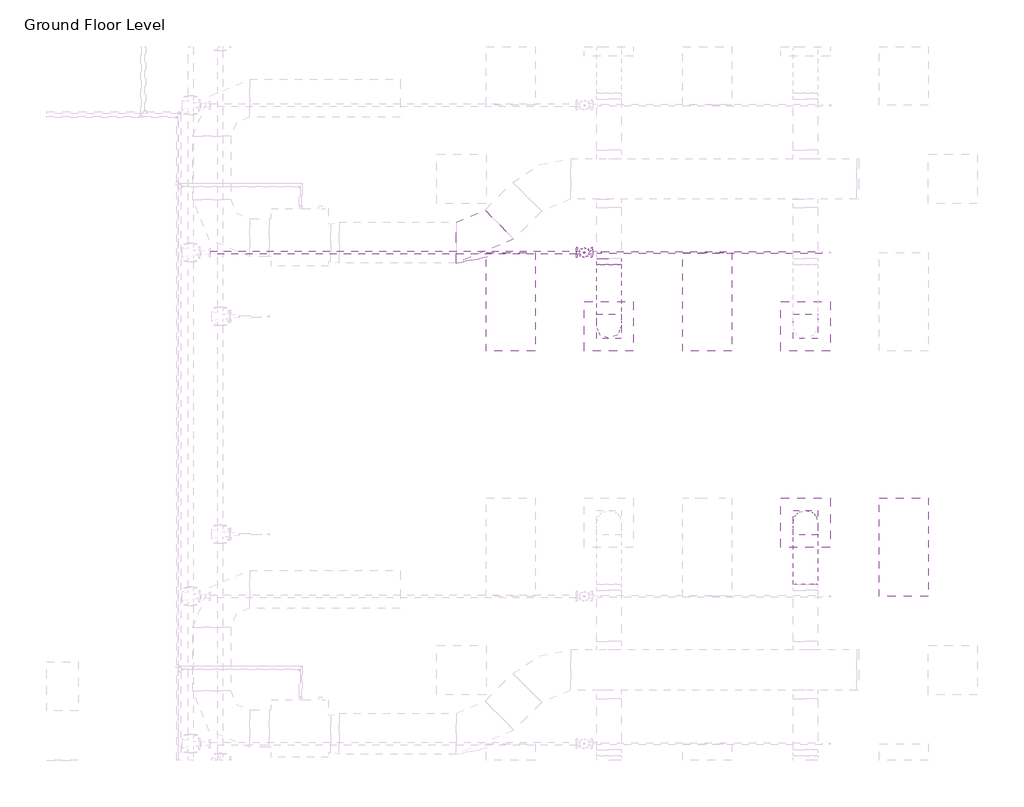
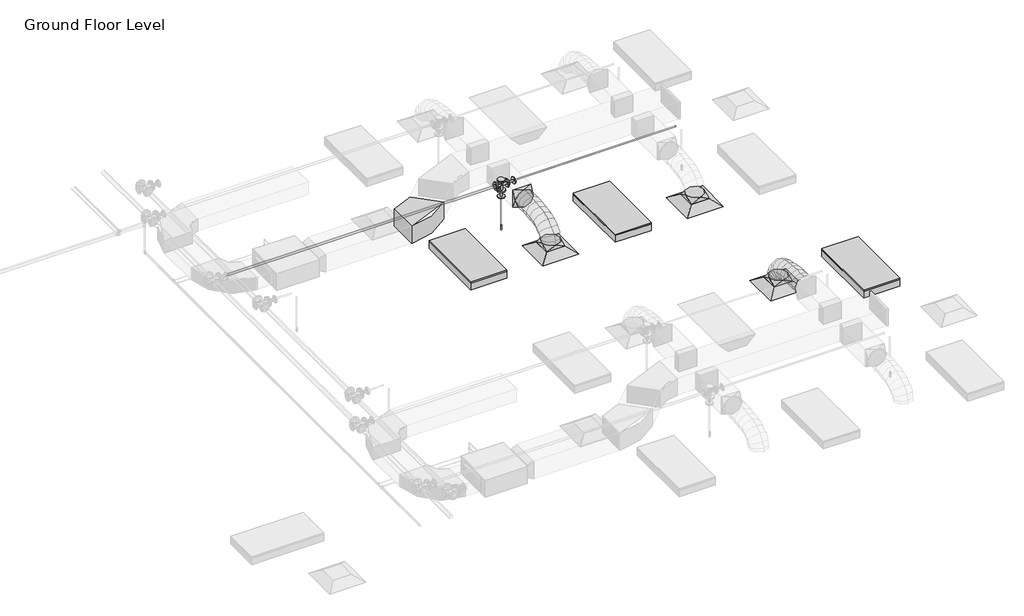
# One storey, part 68 of 73: 5 duct fittings, 3 air terminals, 3 light fixtures, 3 pipe fittings, 3 pipe segments, 2 duct segments, 1 fire suppression terminal.
"""IFC4 building model written with IfcOpenShell, lengths in millimetres."""

from ifc_helpers import new_model, si_unit, point, frame, frame_2d, origin, place, context, project, spatial, circle_curve, ellipse_curve, trimmed, segment, composite_curve, outline, extrude, transform, mapped, element, save
from ifc_brep_helpers import plane_surface, cylinder_surface, advanced_brep
from components import m_return_diffuser_600_x_600_face_300_x_300_connection_ff221211, m_rectangular_elbow_radius_1_5_w_acc56c25, m_rectangular_to_round_transition_angle_45_degree_641efff0, m_sprinkler_dry_pendent_hosted_15_mm_dry_pendent_9bda8e11, m_troffer_light_parabolic_rectangular1_0600x1200mm_4_lamp_86473d4a, m_reducer_flanged_cs_class_150_standard_ccf252ad, m_tee_round_base_flanged_cs_class_150_standard_7e5987a1

model = new_model("IFC4")

# Units and contexts
model_context = context("Model", 3, world=origin())
ifc_project = project(units=[si_unit("LENGTHUNIT", "METRE", prefix="MILLI")], contexts=[model_context])

# Site, building, storey
site = spatial("IfcSite", under=ifc_project)
building = spatial("IfcBuilding", under=site)
storey = spatial("IfcBuildingStorey", under=building, Name="Ground Floor Level", Elevation=900.0)

# Air terminals
placement = place(None, origin())
m_return_diffuser_600_x_600_face_300_x_300_connection_shape = m_return_diffuser_600_x_600_face_300_x_300_connection_ff221211(model_context)
element("IfcAirTerminal", 1, ObjectType="M_Supply Diffuser : 600 x 600 Face 300 x 300 Connection", at=placement, inside=storey, context=model_context, shape_type="MappedRepresentation", body=[
    mapped(m_return_diffuser_600_x_600_face_300_x_300_connection_shape, transform((10742.7672395, 10935.2153534, 3650.0), x_axis=(1.0, 0.0, 0.0), y_axis=(0.0, 1.0, 0.0), z_axis=(0.0, 0.0, 1.0))),
])
element("IfcAirTerminal", 2, ObjectType="M_Supply Diffuser : 600 x 600 Face 300 x 300 Connection", at=placement, inside=storey, context=model_context, shape_type="MappedRepresentation", body=[
    mapped(m_return_diffuser_600_x_600_face_300_x_300_connection_shape, transform((13142.7672395, 10935.2153534, 3650.0), x_axis=(1.0, 0.0, 0.0), y_axis=(0.0, 1.0, 0.0), z_axis=(0.0, 0.0, 1.0))),
])
element("IfcAirTerminal", 3, ObjectType="M_Supply Diffuser : 600 x 600 Face 300 x 300 Connection", at=placement, inside=storey, context=model_context, shape_type="MappedRepresentation", body=[
    mapped(m_return_diffuser_600_x_600_face_300_x_300_connection_shape, transform((13142.7672395, 8535.2153534, 3650.0), x_axis=(1.0, 0.0, 0.0), y_axis=(0.0, 1.0, 0.0), z_axis=(0.0, 0.0, 1.0))),
])

# Duct fittings
m_rectangular_elbow_radius_1_5_w_shape = m_rectangular_elbow_radius_1_5_w_acc56c25(model_context)
element("IfcDuctFitting", 4, ObjectType="M_Rectangular Elbow - Radius : 1.5 W", at=placement, inside=storey, context=model_context, shape_type="MappedRepresentation", body=[
    mapped(m_rectangular_elbow_radius_1_5_w_shape, transform((9187.6927358, 11956.1779527, 4100.0047224), x_axis=(0.9999999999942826, 0.0, -3.3815582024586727e-06), y_axis=(-9.063610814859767e-12, 0.9999999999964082, -2.680306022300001e-06), z_axis=(3.3815582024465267e-06, 2.6803060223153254e-06, 0.9999999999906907))),
])
m_rectangular_to_round_transition_angle_45_degree_shape = m_rectangular_to_round_transition_angle_45_degree_641efff0(model_context)
element("IfcDuctFitting", 5, ObjectType="M_Rectangular to Round Transition - Angle : 45 Degree", at=placement, inside=storey, context=model_context, shape_type="MappedRepresentation", body=[
    mapped(m_rectangular_to_round_transition_angle_45_degree_shape, transform((13142.7672395, 8535.2153534, 3751.6), x_axis=(0.0, 0.0, 1.0), y_axis=(-1.0, 0.0, 0.0), z_axis=(0.0, -1.0, 0.0))),
])
element("IfcDuctFitting", 6, ObjectType="M_Rectangular to Round Transition - Angle : 45 Degree", at=placement, inside=storey, context=model_context, shape_type="MappedRepresentation", body=[
    mapped(m_rectangular_to_round_transition_angle_45_degree_shape, transform((10742.7672395, 10935.2153534, 3751.6), x_axis=(0.0, 0.0, 1.0), y_axis=(-1.0, 0.0, 0.0), z_axis=(0.0, -1.0, 0.0))),
])
element("IfcDuctFitting", 7, ObjectType="M_Rectangular to Round Transition - Angle : 45 Degree", at=placement, inside=storey, context=model_context, shape_type="MappedRepresentation", body=[
    mapped(m_rectangular_to_round_transition_angle_45_degree_shape, transform((10742.7672395, 11762.5512847, 4100.0), x_axis=(0.0, -1.0, 0.0), y_axis=(1.0, 0.0, 0.0), z_axis=(0.0, 0.0, 1.0))),
])
element("IfcDuctFitting", 8, ObjectType="M_Rectangular to Round Transition - Angle : 45 Degree", at=placement, inside=storey, context=model_context, shape_type="MappedRepresentation", body=[
    mapped(m_rectangular_to_round_transition_angle_45_degree_shape, transform((13142.7672395, 10935.2153534, 3751.6), x_axis=(0.0, 0.0, 1.0), y_axis=(-1.0, 0.0, 0.0), z_axis=(0.0, -1.0, 0.0))),
])

# Duct segments
element("IfcDuctSegment", 9, ObjectType="Flex - Round", at=placement, inside=storey, context=model_context, shape_type="AdvancedBrep", body=[
    advanced_brep(
    [(13292.7672395, 8535.2153534, 3826.6), (13142.7672395, 8385.2153534, 3826.6), (12992.7672395, 8535.2153534, 3826.6), (13142.7672395, 8685.2153534, 3826.6), (13292.7672395, 8535.2153534, 3857.9377114), (13142.7672395, 8385.2153534, 3832.2944892), (12992.7672395, 8535.2153534, 3857.9377114), (13142.7672395, 8685.2153534, 3883.5809337), (13292.7672395, 8518.1994208, 3906.2505728), (13142.7672395, 8384.4614419, 3834.435049), (12992.7672395, 8518.1994208, 3906.2505728), (13142.7672395, 8651.9373998, 3978.0660967), (13292.7672395, 8471.0155405, 3968.7113131), (13142.7672395, 8366.8096412, 3857.8020236), (12992.7672395, 8471.0155405, 3968.7113131), (13142.7672395, 8575.2214397, 4079.6206026), (13292.7672395, 8399.4595883, 4016.0700639), (13142.7672395, 8330.5255327, 3881.8163788), (12992.7672395, 8399.4595883, 4016.0700639), (13142.7672395, 8468.3936439, 4150.3237489), (13292.7672395, 8309.3274403, 4050.4146682), (13142.7672395, 8265.7666771, 3906.4925606), (12992.7672395, 8309.3274403, 4050.4146682), (13142.7672395, 8352.8882035, 4194.3367758), (13292.7672395, 8206.4149725, 4073.8329691), (13142.7672395, 8179.8540485, 3926.0424542), (12992.7672395, 8206.4149725, 4073.8329691), (13142.7672395, 8232.9758965, 4221.6234841), (13292.7672395, 8096.5180607, 4088.4128097), (13142.7672395, 8081.3671584, 3939.1085462), (12992.7672395, 8096.5180607, 4088.4128097), (13142.7672395, 8111.6689631, 4237.7170733), (13292.7672395, 7985.4325811, 4096.242033), (13142.7672395, 7977.9272529, 3946.398915), (12992.7672395, 7985.4325811, 4096.242033), (13142.7672395, 7992.9379093, 4246.085151), (13292.7672395, 7878.9544096, 4099.4084821), (13142.7672395, 7876.2629165, 3949.4222102), (12992.7672395, 7878.9544096, 4099.4084821), (13142.7672395, 7881.6459027, 4249.394754), (13292.7672395, 7782.8794221, 4100.0), (13142.7672395, 7783.8029299, 4249.9971571), (12992.7672395, 7782.8794221, 4100.0), (13142.7672395, 7781.9559143, 3950.0028429)],
    [
        (0, 1, circle_curve(frame((13142.7672395, 8535.2153534, 3826.6), z_axis=(0.0, 0.0, -1.0), x_axis=(1.0, 0.0, 0.0)), 150.0)),
        (1, 2, circle_curve(frame((13142.7672395, 8535.2153534, 3826.6), z_axis=(0.0, 0.0, -1.0), x_axis=(1.0, 0.0, 0.0)), 150.0)),
        (2, 3, circle_curve(frame((13142.7672395, 8535.2153534, 3826.6), z_axis=(0.0, 0.0, -1.0), x_axis=(1.0, 0.0, 0.0)), 150.0)),
        (3, 0, circle_curve(frame((13142.7672395, 8535.2153534, 3826.6), z_axis=(0.0, 0.0, -1.0), x_axis=(1.0, 0.0, 0.0)), 150.0)),
        (0, 4),
        (4, 5, ellipse_curve(frame((13142.7672395, 8535.2153534, 3857.9377114), z_axis=(0.0, 0.16851014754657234, -0.9856999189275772), x_axis=(0.0, -0.9856999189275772, -0.1685101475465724)), 152.176131, 150.0)),
        (5, 1),
        (5, 6, ellipse_curve(frame((13142.7672395, 8535.2153534, 3857.9377114), z_axis=(0.0, 0.16851014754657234, -0.9856999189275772), x_axis=(0.0, -0.9856999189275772, -0.1685101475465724)), 152.176131, 150.0)),
        (6, 2),
        (6, 7, ellipse_curve(frame((13142.7672395, 8535.2153534, 3857.9377114), z_axis=(0.0, 0.16851014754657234, -0.9856999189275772), x_axis=(0.0, -0.9856999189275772, -0.1685101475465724)), 152.176131, 150.0)),
        (7, 3),
        (7, 4, ellipse_curve(frame((13142.7672395, 8535.2153534, 3857.9377114), z_axis=(0.0, 0.16851014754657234, -0.9856999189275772), x_axis=(0.0, -0.9856999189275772, -0.1685101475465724)), 152.176131, 150.0)),
        (4, 8),
        (8, 9, ellipse_curve(frame((13142.7672395, 8518.1994208, 3906.2505728), z_axis=(0.0, 0.4730922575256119, -0.8810128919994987), x_axis=(0.0, -0.8810128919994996, -0.47309225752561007)), 151.8002519, 150.0)),
        (9, 5),
        (9, 10, ellipse_curve(frame((13142.7672395, 8518.1994208, 3906.2505728), z_axis=(0.0, 0.4730922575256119, -0.8810128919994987), x_axis=(0.0, -0.8810128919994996, -0.47309225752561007)), 151.8002519, 150.0)),
        (10, 6),
        (10, 11, ellipse_curve(frame((13142.7672395, 8518.1994208, 3906.2505728), z_axis=(0.0, 0.4730922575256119, -0.8810128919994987), x_axis=(0.0, -0.8810128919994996, -0.47309225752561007)), 151.8002519, 150.0)),
        (11, 7),
        (11, 8, ellipse_curve(frame((13142.7672395, 8518.1994208, 3906.2505728), z_axis=(0.0, 0.4730922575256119, -0.8810128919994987), x_axis=(0.0, -0.8810128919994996, -0.47309225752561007)), 151.8002519, 150.0)),
        (8, 12),
        (12, 13, ellipse_curve(frame((13142.7672395, 8471.0155405, 3968.7113131), z_axis=(0.0, 0.7287877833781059, -0.6847396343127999), x_axis=(0.0, -0.6847396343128, -0.7287877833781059)), 152.1832446, 150.0)),
        (13, 9),
        (13, 14, ellipse_curve(frame((13142.7672395, 8471.0155405, 3968.7113131), z_axis=(0.0, 0.7287877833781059, -0.6847396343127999), x_axis=(0.0, -0.6847396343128, -0.7287877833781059)), 152.1832446, 150.0)),
        (14, 10),
        (14, 15, ellipse_curve(frame((13142.7672395, 8471.0155405, 3968.7113131), z_axis=(0.0, 0.7287877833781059, -0.6847396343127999), x_axis=(0.0, -0.6847396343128, -0.7287877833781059)), 152.1832446, 150.0)),
        (15, 11),
        (15, 12, ellipse_curve(frame((13142.7672395, 8471.0155405, 3968.7113131), z_axis=(0.0, 0.7287877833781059, -0.6847396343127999), x_axis=(0.0, -0.6847396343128, -0.7287877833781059)), 152.1832446, 150.0)),
        (12, 16),
        (16, 17, ellipse_curve(frame((13142.7672395, 8399.4595883, 4016.0700639), z_axis=(0.0, 0.8895859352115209, -0.4567678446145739), x_axis=(0.0, -0.4567678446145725, -0.8895859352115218)), 150.91705, 150.0)),
        (17, 13),
        (17, 18, ellipse_curve(frame((13142.7672395, 8399.4595883, 4016.0700639), z_axis=(0.0, 0.8895859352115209, -0.4567678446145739), x_axis=(0.0, -0.4567678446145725, -0.8895859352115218)), 150.91705, 150.0)),
        (18, 14),
        (18, 19, ellipse_curve(frame((13142.7672395, 8399.4595883, 4016.0700639), z_axis=(0.0, 0.8895859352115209, -0.4567678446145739), x_axis=(0.0, -0.4567678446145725, -0.8895859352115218)), 150.91705, 150.0)),
        (19, 15),
        (19, 16, ellipse_curve(frame((13142.7672395, 8399.4595883, 4016.0700639), z_axis=(0.0, 0.8895859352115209, -0.4567678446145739), x_axis=(0.0, -0.4567678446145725, -0.8895859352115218)), 150.91705, 150.0)),
        (16, 20),
        (20, 21, ellipse_curve(frame((13142.7672395, 8309.3274403, 4050.4146682), z_axis=(0.0, 0.9571203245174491, -0.28969067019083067), x_axis=(0.0, -0.28969067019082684, -0.9571203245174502)), 150.369921, 150.0)),
        (21, 17),
        (21, 22, ellipse_curve(frame((13142.7672395, 8309.3274403, 4050.4146682), z_axis=(0.0, 0.9571203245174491, -0.28969067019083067), x_axis=(0.0, -0.28969067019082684, -0.9571203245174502)), 150.369921, 150.0)),
        (22, 18),
        (22, 23, ellipse_curve(frame((13142.7672395, 8309.3274403, 4050.4146682), z_axis=(0.0, 0.9571203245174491, -0.28969067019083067), x_axis=(0.0, -0.28969067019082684, -0.9571203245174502)), 150.369921, 150.0)),
        (23, 19),
        (23, 20, ellipse_curve(frame((13142.7672395, 8309.3274403, 4050.4146682), z_axis=(0.0, 0.9571203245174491, -0.28969067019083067), x_axis=(0.0, -0.28969067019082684, -0.9571203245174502)), 150.369921, 150.0)),
        (20, 24),
        (24, 25, ellipse_curve(frame((13142.7672395, 8206.4149725, 4073.8329691), z_axis=(0.0, 0.9842313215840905, -0.17688613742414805), x_axis=(0.0, -0.17688613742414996, -0.9842313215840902)), 150.1583131, 150.0)),
        (25, 21),
        (25, 26, ellipse_curve(frame((13142.7672395, 8206.4149725, 4073.8329691), z_axis=(0.0, 0.9842313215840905, -0.17688613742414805), x_axis=(0.0, -0.17688613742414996, -0.9842313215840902)), 150.1583131, 150.0)),
        (26, 22),
        (26, 27, ellipse_curve(frame((13142.7672395, 8206.4149725, 4073.8329691), z_axis=(0.0, 0.9842313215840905, -0.17688613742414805), x_axis=(0.0, -0.17688613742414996, -0.9842313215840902)), 150.1583131, 150.0)),
        (27, 23),
        (27, 24, ellipse_curve(frame((13142.7672395, 8206.4149725, 4073.8329691), z_axis=(0.0, 0.9842313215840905, -0.17688613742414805), x_axis=(0.0, -0.17688613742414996, -0.9842313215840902)), 150.1583131, 150.0)),
        (24, 28),
        (28, 29, ellipse_curve(frame((13142.7672395, 8096.5180607, 4088.4128097), z_axis=(0.0, 0.9948906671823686, -0.10095821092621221), x_axis=(0.0, -0.10095821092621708, -0.9948906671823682)), 150.0710264, 150.0)),
        (29, 25),
        (29, 30, ellipse_curve(frame((13142.7672395, 8096.5180607, 4088.4128097), z_axis=(0.0, 0.9948906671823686, -0.10095821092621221), x_axis=(0.0, -0.10095821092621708, -0.9948906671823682)), 150.0710264, 150.0)),
        (30, 26),
        (30, 31, ellipse_curve(frame((13142.7672395, 8096.5180607, 4088.4128097), z_axis=(0.0, 0.9948906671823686, -0.10095821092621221), x_axis=(0.0, -0.10095821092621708, -0.9948906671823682)), 150.0710264, 150.0)),
        (31, 27),
        (31, 28, ellipse_curve(frame((13142.7672395, 8096.5180607, 4088.4128097), z_axis=(0.0, 0.9948906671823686, -0.10095821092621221), x_axis=(0.0, -0.10095821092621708, -0.9948906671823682)), 150.0710264, 150.0)),
        (28, 32),
        (32, 33, ellipse_curve(frame((13142.7672395, 7985.4325811, 4096.242033), z_axis=(0.0, 0.9987479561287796, -0.05002519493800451), x_axis=(0.0, -0.050025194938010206, -0.9987479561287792)), 150.0309634, 150.0)),
        (33, 29),
        (33, 34, ellipse_curve(frame((13142.7672395, 7985.4325811, 4096.242033), z_axis=(0.0, 0.9987479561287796, -0.05002519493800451), x_axis=(0.0, -0.050025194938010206, -0.9987479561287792)), 150.0309634, 150.0)),
        (34, 30),
        (34, 35, ellipse_curve(frame((13142.7672395, 7985.4325811, 4096.242033), z_axis=(0.0, 0.9987479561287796, -0.05002519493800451), x_axis=(0.0, -0.050025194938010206, -0.9987479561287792)), 150.0309634, 150.0)),
        (35, 31),
        (35, 32, ellipse_curve(frame((13142.7672395, 7985.4325811, 4096.242033), z_axis=(0.0, 0.9987479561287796, -0.05002519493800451), x_axis=(0.0, -0.050025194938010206, -0.9987479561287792)), 150.0309634, 150.0)),
        (32, 36),
        (36, 37, ellipse_curve(frame((13142.7672395, 7878.9544096, 4099.4084821), z_axis=(0.0, 0.9998390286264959, -0.017942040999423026), x_axis=(0.0, -0.01794204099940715, -0.9998390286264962)), 150.0104193, 150.0)),
        (37, 33),
        (37, 38, ellipse_curve(frame((13142.7672395, 7878.9544096, 4099.4084821), z_axis=(0.0, 0.9998390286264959, -0.017942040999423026), x_axis=(0.0, -0.01794204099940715, -0.9998390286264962)), 150.0104193, 150.0)),
        (38, 34),
        (38, 39, ellipse_curve(frame((13142.7672395, 7878.9544096, 4099.4084821), z_axis=(0.0, 0.9998390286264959, -0.017942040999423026), x_axis=(0.0, -0.01794204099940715, -0.9998390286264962)), 150.0104193, 150.0)),
        (39, 35),
        (39, 36, ellipse_curve(frame((13142.7672395, 7878.9544096, 4099.4084821), z_axis=(0.0, 0.9998390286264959, -0.017942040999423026), x_axis=(0.0, -0.01794204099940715, -0.9998390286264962)), 150.0104193, 150.0)),
        (40, 41, circle_curve(frame((13142.7672395, 7782.8794221, 4100.0), z_axis=(0.0, -0.9999810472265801, 0.006156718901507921), x_axis=(1.0, 0.0, 0.0)), 150.0)),
        (41, 42, circle_curve(frame((13142.7672395, 7782.8794221, 4100.0), z_axis=(0.0, -0.9999810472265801, 0.006156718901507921), x_axis=(1.0, 0.0, 0.0)), 150.0)),
        (42, 43, circle_curve(frame((13142.7672395, 7782.8794221, 4100.0), z_axis=(0.0, -0.9999810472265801, 0.006156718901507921), x_axis=(1.0, 0.0, 0.0)), 150.0)),
        (43, 40, circle_curve(frame((13142.7672395, 7782.8794221, 4100.0), z_axis=(0.0, -0.9999810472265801, 0.006156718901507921), x_axis=(1.0, 0.0, 0.0)), 150.0)),
        (36, 40),
        (43, 37),
        (42, 38),
        (41, 39),
    ],
    [
        plane_surface(frame((13142.7672395, 8385.2153534, 3826.6), z_axis=(0.0, 0.0, -1.0), x_axis=(1.0, 0.0, 0.0))),
        cylinder_surface(frame((13142.7672395, 8535.2153534, 3826.6), z_axis=(0.0, 0.0, -1.0), x_axis=(1.0, 0.0, 0.0)), 150.0),
        cylinder_surface(frame((13142.7672395, 8535.2153534, 3857.9377114), z_axis=(0.0, 0.3322008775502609, -0.9432086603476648), x_axis=(1.0, 0.0, 0.0)), 150.0),
        cylinder_surface(frame((13142.7672395, 8518.1994208, 3906.2505728), z_axis=(0.0, 0.6027625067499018, -0.7979206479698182), x_axis=(1.0, 0.0, 0.0)), 150.0),
        cylinder_surface(frame((13142.7672395, 8471.0155405, 3968.7113131), z_axis=(0.0, 0.8339024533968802, -0.5519118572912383), x_axis=(1.0, 0.0, 0.0)), 150.0),
        cylinder_surface(frame((13142.7672395, 8399.4595883, 4016.0700639), z_axis=(0.0, 0.934458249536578, -0.35607271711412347), x_axis=(1.0, 0.0, 0.0)), 150.0),
        cylinder_surface(frame((13142.7672395, 8309.3274403, 4050.4146682), z_axis=(0.0, 0.9750732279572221, -0.22188330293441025), x_axis=(1.0, 0.0, 0.0)), 150.0),
        cylinder_surface(frame((13142.7672395, 8206.4149725, 4073.8329691), z_axis=(0.0, 0.9913140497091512, -0.1315159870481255), x_axis=(1.0, 0.0, 0.0)), 150.0),
        cylinder_surface(frame((13142.7672395, 8096.5180607, 4088.4128097), z_axis=(0.0, 0.9975255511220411, -0.07030487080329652), x_axis=(1.0, 0.0, 0.0)), 150.0),
        cylinder_surface(frame((13142.7672395, 7985.4325811, 4096.242033), z_axis=(0.0, 0.9995581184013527, -0.02972487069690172), x_axis=(1.0, 0.0, 0.0)), 150.0),
        plane_surface(frame((13142.7672395, 7781.9559143, 3950.0028429), z_axis=(0.0, -0.9999810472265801, 0.006156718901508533), x_axis=(1.0, 0.0, 0.0))),
        cylinder_surface(frame((13142.7672395, 7878.9544096, 4099.4084821), z_axis=(0.0, 0.9999810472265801, -0.006156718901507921), x_axis=(1.0, 0.0, 0.0)), 150.0),
    ],
    [
        (0, [[1, 2, 3, 4]]),
        (1, [[-1, 5, 6, 7]]),
        (1, [[-2, -7, 8, 9]]),
        (1, [[-3, -9, 10, 11]]),
        (1, [[-4, -11, 12, -5]]),
        (2, [[-6, 13, 14, 15]]),
        (2, [[-8, -15, 16, 17]]),
        (2, [[-10, -17, 18, 19]]),
        (2, [[-12, -19, 20, -13]]),
        (3, [[-14, 21, 22, 23]]),
        (3, [[-16, -23, 24, 25]]),
        (3, [[-18, -25, 26, 27]]),
        (3, [[-20, -27, 28, -21]]),
        (4, [[-22, 29, 30, 31]]),
        (4, [[-24, -31, 32, 33]]),
        (4, [[-26, -33, 34, 35]]),
        (4, [[-28, -35, 36, -29]]),
        (5, [[-30, 37, 38, 39]]),
        (5, [[-32, -39, 40, 41]]),
        (5, [[-34, -41, 42, 43]]),
        (5, [[-36, -43, 44, -37]]),
        (6, [[-38, 45, 46, 47]]),
        (6, [[-40, -47, 48, 49]]),
        (6, [[-42, -49, 50, 51]]),
        (6, [[-44, -51, 52, -45]]),
        (7, [[-46, 53, 54, 55]]),
        (7, [[-48, -55, 56, 57]]),
        (7, [[-50, -57, 58, 59]]),
        (7, [[-52, -59, 60, -53]]),
        (8, [[-54, 61, 62, 63]]),
        (8, [[-56, -63, 64, 65]]),
        (8, [[-58, -65, 66, 67]]),
        (8, [[-60, -67, 68, -61]]),
        (9, [[-62, 69, 70, 71]]),
        (9, [[-64, -71, 72, 73]]),
        (9, [[-66, -73, 74, 75]]),
        (9, [[-68, -75, 76, -69]]),
        (10, [[77, 78, 79, 80]]),
        (11, [[-70, 81, -80, 82]]),
        (11, [[-72, -82, -79, 83]]),
        (11, [[-74, -83, -78, 84]]),
        (11, [[-76, -84, -77, -81]]),
    ],
),
])
element("IfcDuctSegment", 10, ObjectType="Flex - Round", at=placement, inside=storey, context=model_context, shape_type="AdvancedBrep", body=[
    advanced_brep(
    [(10892.7672395, 10935.2153534, 3826.6), (10742.7672395, 10785.2153534, 3826.6), (10592.7672395, 10935.2153534, 3826.6), (10742.7672395, 11085.2153534, 3826.6), (10892.7672395, 10935.2153534, 3857.9377114), (10742.7672395, 10785.2153534, 3883.5809337), (10592.7672395, 10935.2153534, 3857.9377114), (10742.7672395, 11085.2153534, 3832.2944892), (10892.7672395, 10952.2312859, 3906.2505728), (10742.7672395, 10818.493307, 3978.0660967), (10592.7672395, 10952.2312859, 3906.2505728), (10742.7672395, 11085.9692649, 3834.435049), (10892.7672395, 10999.4151663, 3968.7113131), (10742.7672395, 10895.209267, 4079.6206026), (10592.7672395, 10999.4151663, 3968.7113131), (10742.7672395, 11103.6210655, 3857.8020236), (10892.7672395, 11070.9711184, 4016.0700639), (10742.7672395, 11002.0370628, 4150.3237489), (10592.7672395, 11070.9711184, 4016.0700639), (10742.7672395, 11139.9051741, 3881.8163788), (10892.7672395, 11161.1032664, 4050.4146682), (10742.7672395, 11117.5425033, 4194.3367758), (10592.7672395, 11161.1032664, 4050.4146682), (10742.7672395, 11204.6640296, 3906.4925606), (10892.7672395, 11264.0157343, 4073.8329691), (10742.7672395, 11237.4548103, 4221.6234841), (10592.7672395, 11264.0157343, 4073.8329691), (10742.7672395, 11290.5766583, 3926.0424542), (10892.7672395, 11373.912646, 4088.4128097), (10742.7672395, 11358.7617437, 4237.7170733), (10592.7672395, 11373.912646, 4088.4128097), (10742.7672395, 11389.0635483, 3939.1085462), (10892.7672395, 11484.9981256, 4096.242033), (10742.7672395, 11477.4927975, 4246.085151), (10592.7672395, 11484.9981256, 4096.242033), (10742.7672395, 11492.5034538, 3946.398915), (10892.7672395, 11591.4762972, 4099.4084821), (10742.7672395, 11588.7848041, 4249.394754), (10592.7672395, 11591.4762972, 4099.4084821), (10742.7672395, 11594.1677903, 3949.4222102), (10892.7672395, 11687.5512847, 4100.0), (10742.7672395, 11688.4747925, 3950.0028429), (10592.7672395, 11687.5512847, 4100.0), (10742.7672395, 11686.6277768, 4249.9971571)],
    [
        (0, 1, circle_curve(frame((10742.7672395, 10935.2153534, 3826.6), z_axis=(0.0, 0.0, -1.0), x_axis=(1.0, 0.0, 0.0)), 150.0)),
        (1, 2, circle_curve(frame((10742.7672395, 10935.2153534, 3826.6), z_axis=(0.0, 0.0, -1.0), x_axis=(1.0, 0.0, 0.0)), 150.0)),
        (2, 3, circle_curve(frame((10742.7672395, 10935.2153534, 3826.6), z_axis=(0.0, 0.0, -1.0), x_axis=(1.0, 0.0, 0.0)), 150.0)),
        (3, 0, circle_curve(frame((10742.7672395, 10935.2153534, 3826.6), z_axis=(0.0, 0.0, -1.0), x_axis=(1.0, 0.0, 0.0)), 150.0)),
        (0, 4),
        (4, 5, ellipse_curve(frame((10742.7672395, 10935.2153534, 3857.9377114), z_axis=(0.0, -0.16851014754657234, -0.9856999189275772), x_axis=(0.0, 0.9856999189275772, -0.1685101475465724)), 152.176131, 150.0)),
        (5, 1),
        (5, 6, ellipse_curve(frame((10742.7672395, 10935.2153534, 3857.9377114), z_axis=(0.0, -0.16851014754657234, -0.9856999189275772), x_axis=(0.0, 0.9856999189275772, -0.1685101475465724)), 152.176131, 150.0)),
        (6, 2),
        (6, 7, ellipse_curve(frame((10742.7672395, 10935.2153534, 3857.9377114), z_axis=(0.0, -0.16851014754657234, -0.9856999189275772), x_axis=(0.0, 0.9856999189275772, -0.1685101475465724)), 152.176131, 150.0)),
        (7, 3),
        (7, 4, ellipse_curve(frame((10742.7672395, 10935.2153534, 3857.9377114), z_axis=(0.0, -0.16851014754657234, -0.9856999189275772), x_axis=(0.0, 0.9856999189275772, -0.1685101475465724)), 152.176131, 150.0)),
        (4, 8),
        (8, 9, ellipse_curve(frame((10742.7672395, 10952.2312859, 3906.2505728), z_axis=(0.0, -0.47309225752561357, -0.8810128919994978), x_axis=(0.0, 0.8810128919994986, -0.47309225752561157)), 151.8002519, 150.0)),
        (9, 5),
        (9, 10, ellipse_curve(frame((10742.7672395, 10952.2312859, 3906.2505728), z_axis=(0.0, -0.47309225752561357, -0.8810128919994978), x_axis=(0.0, 0.8810128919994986, -0.47309225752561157)), 151.8002519, 150.0)),
        (10, 6),
        (10, 11, ellipse_curve(frame((10742.7672395, 10952.2312859, 3906.2505728), z_axis=(0.0, -0.47309225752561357, -0.8810128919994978), x_axis=(0.0, 0.8810128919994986, -0.47309225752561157)), 151.8002519, 150.0)),
        (11, 7),
        (11, 8, ellipse_curve(frame((10742.7672395, 10952.2312859, 3906.2505728), z_axis=(0.0, -0.47309225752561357, -0.8810128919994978), x_axis=(0.0, 0.8810128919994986, -0.47309225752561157)), 151.8002519, 150.0)),
        (8, 12),
        (12, 13, ellipse_curve(frame((10742.7672395, 10999.4151663, 3968.7113131), z_axis=(0.0, -0.7287877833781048, -0.6847396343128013), x_axis=(0.0, 0.6847396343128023, -0.7287877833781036)), 152.1832446, 150.0)),
        (13, 9),
        (13, 14, ellipse_curve(frame((10742.7672395, 10999.4151663, 3968.7113131), z_axis=(0.0, -0.7287877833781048, -0.6847396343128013), x_axis=(0.0, 0.6847396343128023, -0.7287877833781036)), 152.1832446, 150.0)),
        (14, 10),
        (14, 15, ellipse_curve(frame((10742.7672395, 10999.4151663, 3968.7113131), z_axis=(0.0, -0.7287877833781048, -0.6847396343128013), x_axis=(0.0, 0.6847396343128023, -0.7287877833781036)), 152.1832446, 150.0)),
        (15, 11),
        (15, 12, ellipse_curve(frame((10742.7672395, 10999.4151663, 3968.7113131), z_axis=(0.0, -0.7287877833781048, -0.6847396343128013), x_axis=(0.0, 0.6847396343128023, -0.7287877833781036)), 152.1832446, 150.0)),
        (12, 16),
        (16, 17, ellipse_curve(frame((10742.7672395, 11070.9711184, 4016.0700639), z_axis=(0.0, -0.8895859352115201, -0.45676784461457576), x_axis=(0.0, 0.45676784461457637, -0.8895859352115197)), 150.91705, 150.0)),
        (17, 13),
        (17, 18, ellipse_curve(frame((10742.7672395, 11070.9711184, 4016.0700639), z_axis=(0.0, -0.8895859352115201, -0.45676784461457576), x_axis=(0.0, 0.45676784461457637, -0.8895859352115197)), 150.91705, 150.0)),
        (18, 14),
        (18, 19, ellipse_curve(frame((10742.7672395, 11070.9711184, 4016.0700639), z_axis=(0.0, -0.8895859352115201, -0.45676784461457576), x_axis=(0.0, 0.45676784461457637, -0.8895859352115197)), 150.91705, 150.0)),
        (19, 15),
        (19, 16, ellipse_curve(frame((10742.7672395, 11070.9711184, 4016.0700639), z_axis=(0.0, -0.8895859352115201, -0.45676784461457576), x_axis=(0.0, 0.45676784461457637, -0.8895859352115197)), 150.91705, 150.0)),
        (16, 20),
        (20, 21, ellipse_curve(frame((10742.7672395, 11161.1032664, 4050.4146682), z_axis=(0.0, -0.9571203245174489, -0.2896906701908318), x_axis=(0.0, 0.28969067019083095, -0.9571203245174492)), 150.369921, 150.0)),
        (21, 17),
        (21, 22, ellipse_curve(frame((10742.7672395, 11161.1032664, 4050.4146682), z_axis=(0.0, -0.9571203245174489, -0.2896906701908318), x_axis=(0.0, 0.28969067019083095, -0.9571203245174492)), 150.369921, 150.0)),
        (22, 18),
        (22, 23, ellipse_curve(frame((10742.7672395, 11161.1032664, 4050.4146682), z_axis=(0.0, -0.9571203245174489, -0.2896906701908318), x_axis=(0.0, 0.28969067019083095, -0.9571203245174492)), 150.369921, 150.0)),
        (23, 19),
        (23, 20, ellipse_curve(frame((10742.7672395, 11161.1032664, 4050.4146682), z_axis=(0.0, -0.9571203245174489, -0.2896906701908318), x_axis=(0.0, 0.28969067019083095, -0.9571203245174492)), 150.369921, 150.0)),
        (20, 24),
        (24, 25, ellipse_curve(frame((10742.7672395, 11264.0157343, 4073.8329691), z_axis=(0.0, -0.9842313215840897, -0.17688613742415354), x_axis=(0.0, 0.1768861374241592, -0.9842313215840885)), 150.1583131, 150.0)),
        (25, 21),
        (25, 26, ellipse_curve(frame((10742.7672395, 11264.0157343, 4073.8329691), z_axis=(0.0, -0.9842313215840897, -0.17688613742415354), x_axis=(0.0, 0.1768861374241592, -0.9842313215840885)), 150.1583131, 150.0)),
        (26, 22),
        (26, 27, ellipse_curve(frame((10742.7672395, 11264.0157343, 4073.8329691), z_axis=(0.0, -0.9842313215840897, -0.17688613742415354), x_axis=(0.0, 0.1768861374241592, -0.9842313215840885)), 150.1583131, 150.0)),
        (27, 23),
        (27, 24, ellipse_curve(frame((10742.7672395, 11264.0157343, 4073.8329691), z_axis=(0.0, -0.9842313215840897, -0.17688613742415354), x_axis=(0.0, 0.1768861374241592, -0.9842313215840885)), 150.1583131, 150.0)),
        (24, 28),
        (28, 29, ellipse_curve(frame((10742.7672395, 11373.912646, 4088.4128097), z_axis=(0.0, -0.9948906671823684, -0.10095821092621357), x_axis=(0.0, 0.10095821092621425, -0.9948906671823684)), 150.0710264, 150.0)),
        (29, 25),
        (29, 30, ellipse_curve(frame((10742.7672395, 11373.912646, 4088.4128097), z_axis=(0.0, -0.9948906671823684, -0.10095821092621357), x_axis=(0.0, 0.10095821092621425, -0.9948906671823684)), 150.0710264, 150.0)),
        (30, 26),
        (30, 31, ellipse_curve(frame((10742.7672395, 11373.912646, 4088.4128097), z_axis=(0.0, -0.9948906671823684, -0.10095821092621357), x_axis=(0.0, 0.10095821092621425, -0.9948906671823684)), 150.0710264, 150.0)),
        (31, 27),
        (31, 28, ellipse_curve(frame((10742.7672395, 11373.912646, 4088.4128097), z_axis=(0.0, -0.9948906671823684, -0.10095821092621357), x_axis=(0.0, 0.10095821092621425, -0.9948906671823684)), 150.0710264, 150.0)),
        (28, 32),
        (32, 33, ellipse_curve(frame((10742.7672395, 11484.9981256, 4096.242033), z_axis=(0.0, -0.9987479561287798, -0.05002519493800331), x_axis=(0.0, 0.050025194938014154, -0.9987479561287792)), 150.0309634, 150.0)),
        (33, 29),
        (33, 34, ellipse_curve(frame((10742.7672395, 11484.9981256, 4096.242033), z_axis=(0.0, -0.9987479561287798, -0.05002519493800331), x_axis=(0.0, 0.050025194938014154, -0.9987479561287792)), 150.0309634, 150.0)),
        (34, 30),
        (34, 35, ellipse_curve(frame((10742.7672395, 11484.9981256, 4096.242033), z_axis=(0.0, -0.9987479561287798, -0.05002519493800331), x_axis=(0.0, 0.050025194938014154, -0.9987479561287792)), 150.0309634, 150.0)),
        (35, 31),
        (35, 32, ellipse_curve(frame((10742.7672395, 11484.9981256, 4096.242033), z_axis=(0.0, -0.9987479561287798, -0.05002519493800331), x_axis=(0.0, 0.050025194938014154, -0.9987479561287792)), 150.0309634, 150.0)),
        (32, 36),
        (36, 37, ellipse_curve(frame((10742.7672395, 11591.4762972, 4099.4084821), z_axis=(0.0, -0.9998390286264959, -0.01794204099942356), x_axis=(-1.8187895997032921e-12, 0.017942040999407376, -0.9998390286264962)), 150.0104193, 150.0)),
        (37, 33),
        (37, 38, ellipse_curve(frame((10742.7672395, 11591.4762972, 4099.4084821), z_axis=(0.0, -0.9998390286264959, -0.01794204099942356), x_axis=(-1.8187895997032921e-12, 0.017942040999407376, -0.9998390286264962)), 150.0104193, 150.0)),
        (38, 34),
        (38, 39, ellipse_curve(frame((10742.7672395, 11591.4762972, 4099.4084821), z_axis=(0.0, -0.9998390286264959, -0.01794204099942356), x_axis=(-1.8187895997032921e-12, 0.017942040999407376, -0.9998390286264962)), 150.0104193, 150.0)),
        (39, 35),
        (39, 36, ellipse_curve(frame((10742.7672395, 11591.4762972, 4099.4084821), z_axis=(0.0, -0.9998390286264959, -0.01794204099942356), x_axis=(-1.8187895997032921e-12, 0.017942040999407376, -0.9998390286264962)), 150.0104193, 150.0)),
        (40, 41, circle_curve(frame((10742.7672395, 11687.5512847, 4100.0), z_axis=(0.0, 0.9999810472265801, 0.006156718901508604), x_axis=(1.0, 0.0, 0.0)), 150.0)),
        (41, 42, circle_curve(frame((10742.7672395, 11687.5512847, 4100.0), z_axis=(0.0, 0.9999810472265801, 0.006156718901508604), x_axis=(1.0, 0.0, 0.0)), 150.0)),
        (42, 43, circle_curve(frame((10742.7672395, 11687.5512847, 4100.0), z_axis=(0.0, 0.9999810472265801, 0.006156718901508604), x_axis=(1.0, 0.0, 0.0)), 150.0)),
        (43, 40, circle_curve(frame((10742.7672395, 11687.5512847, 4100.0), z_axis=(0.0, 0.9999810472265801, 0.006156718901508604), x_axis=(1.0, 0.0, 0.0)), 150.0)),
        (36, 40),
        (43, 37),
        (42, 38),
        (41, 39),
    ],
    [
        plane_surface(frame((10742.7672395, 10785.2153534, 3826.6), z_axis=(0.0, 0.0, -1.0), x_axis=(1.0, 0.0, 0.0))),
        cylinder_surface(frame((10742.7672395, 10935.2153534, 3826.6), z_axis=(0.0, 0.0, -1.0), x_axis=(1.0, 0.0, 0.0)), 150.0),
        cylinder_surface(frame((10742.7672395, 10935.2153534, 3857.9377114), z_axis=(0.0, -0.3322008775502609, -0.9432086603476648), x_axis=(1.0, 0.0, 0.0)), 150.0),
        cylinder_surface(frame((10742.7672395, 10952.2312859, 3906.2505728), z_axis=(0.0, -0.6027625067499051, -0.7979206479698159), x_axis=(1.0, 0.0, 0.0)), 150.0),
        cylinder_surface(frame((10742.7672395, 10999.4151663, 3968.7113131), z_axis=(0.0, -0.833902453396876, -0.5519118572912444), x_axis=(1.0, 0.0, 0.0)), 150.0),
        cylinder_surface(frame((10742.7672395, 11070.9711184, 4016.0700639), z_axis=(0.0, -0.9344582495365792, -0.35607271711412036), x_axis=(1.0, 0.0, 0.0)), 150.0),
        cylinder_surface(frame((10742.7672395, 11161.1032664, 4050.4146682), z_axis=(0.0, -0.9750732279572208, -0.22188330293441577), x_axis=(1.0, 0.0, 0.0)), 150.0),
        cylinder_surface(frame((10742.7672395, 11264.0157343, 4073.8329691), z_axis=(0.0, -0.9913140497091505, -0.131515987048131), x_axis=(1.0, 0.0, 0.0)), 150.0),
        cylinder_surface(frame((10742.7672395, 11373.912646, 4088.4128097), z_axis=(0.0, -0.9975255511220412, -0.07030487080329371), x_axis=(1.0, 0.0, 0.0)), 150.0),
        cylinder_surface(frame((10742.7672395, 11484.9981256, 4096.242033), z_axis=(0.0, -0.9995581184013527, -0.029724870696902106), x_axis=(1.0, 0.0, 0.0)), 150.0),
        plane_surface(frame((10742.7672395, 11686.6277768, 4249.9971571), z_axis=(0.0, 0.9999810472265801, 0.0061567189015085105), x_axis=(1.0, 0.0, 0.0))),
        cylinder_surface(frame((10742.7672395, 11591.4762972, 4099.4084821), z_axis=(0.0, -0.9999810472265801, -0.006156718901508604), x_axis=(1.0, 0.0, 0.0)), 150.0),
    ],
    [
        (0, [[1, 2, 3, 4]]),
        (1, [[-1, 5, 6, 7]]),
        (1, [[-2, -7, 8, 9]]),
        (1, [[-3, -9, 10, 11]]),
        (1, [[-4, -11, 12, -5]]),
        (2, [[-6, 13, 14, 15]]),
        (2, [[-8, -15, 16, 17]]),
        (2, [[-10, -17, 18, 19]]),
        (2, [[-12, -19, 20, -13]]),
        (3, [[-14, 21, 22, 23]]),
        (3, [[-16, -23, 24, 25]]),
        (3, [[-18, -25, 26, 27]]),
        (3, [[-20, -27, 28, -21]]),
        (4, [[-22, 29, 30, 31]]),
        (4, [[-24, -31, 32, 33]]),
        (4, [[-26, -33, 34, 35]]),
        (4, [[-28, -35, 36, -29]]),
        (5, [[-30, 37, 38, 39]]),
        (5, [[-32, -39, 40, 41]]),
        (5, [[-34, -41, 42, 43]]),
        (5, [[-36, -43, 44, -37]]),
        (6, [[-38, 45, 46, 47]]),
        (6, [[-40, -47, 48, 49]]),
        (6, [[-42, -49, 50, 51]]),
        (6, [[-44, -51, 52, -45]]),
        (7, [[-46, 53, 54, 55]]),
        (7, [[-48, -55, 56, 57]]),
        (7, [[-50, -57, 58, 59]]),
        (7, [[-52, -59, 60, -53]]),
        (8, [[-54, 61, 62, 63]]),
        (8, [[-56, -63, 64, 65]]),
        (8, [[-58, -65, 66, 67]]),
        (8, [[-60, -67, 68, -61]]),
        (9, [[-62, 69, 70, 71]]),
        (9, [[-64, -71, 72, 73]]),
        (9, [[-66, -73, 74, 75]]),
        (9, [[-68, -75, 76, -69]]),
        (10, [[77, 78, 79, 80]]),
        (11, [[-70, 81, -80, 82]]),
        (11, [[-72, -82, -79, 83]]),
        (11, [[-74, -83, -78, 84]]),
        (11, [[-76, -84, -77, -81]]),
    ],
),
])

# Fire suppression terminal
m_sprinkler_dry_pendent_hosted_15_mm_dry_pendent_shape = m_sprinkler_dry_pendent_hosted_15_mm_dry_pendent_9bda8e11(model_context)
element("IfcFireSuppressionTerminal", 11, ObjectType="M_Sprinkler - Dry - Pendent - Hosted : 15 mm Dry Pendent", at=placement, inside=storey, context=model_context, shape_type="MappedRepresentation", body=[
    mapped(m_sprinkler_dry_pendent_hosted_15_mm_dry_pendent_shape, transform((10442.7672395, 11835.2153534, 3650.0), x_axis=(1.0, 0.0, 0.0), y_axis=(0.0, -1.0, 0.0), z_axis=(0.0, 0.0, -1.0))),
])

# Light fixtures
m_troffer_light_parabolic_rectangular1_0600x1200mm_4_lamp_shape = m_troffer_light_parabolic_rectangular1_0600x1200mm_4_lamp_86473d4a(model_context)
element("IfcLightFixture", 12, ObjectType="M_Troffer Light - Parabolic Rectangular1 : 0600x1200mm(4 Lamp) - 277V 2", at=placement, inside=storey, context=model_context, shape_type="MappedRepresentation", body=[
    mapped(m_troffer_light_parabolic_rectangular1_0600x1200mm_4_lamp_shape, transform((9483.3013074, 11253.918855, 3650.0), x_axis=(0.0, 1.0, 0.0), y_axis=(-1.0, 0.0, 0.0), z_axis=(0.0, 0.0, 1.0))),
])
element("IfcLightFixture", 13, ObjectType="M_Troffer Light - Parabolic Rectangular1 : 0600x1200mm(4 Lamp) - 277V 2", at=placement, inside=storey, context=model_context, shape_type="MappedRepresentation", body=[
    mapped(m_troffer_light_parabolic_rectangular1_0600x1200mm_4_lamp_shape, transform((11883.3013074, 11253.918855, 3650.0), x_axis=(0.0, 1.0, 0.0), y_axis=(-1.0, 0.0, 0.0), z_axis=(0.0, 0.0, 1.0))),
])
element("IfcLightFixture", 14, ObjectType="M_Troffer Light - Parabolic Rectangular1 : 0600x1200mm(4 Lamp) - 277V 2", at=placement, inside=storey, context=model_context, shape_type="MappedRepresentation", body=[
    mapped(m_troffer_light_parabolic_rectangular1_0600x1200mm_4_lamp_shape, transform((14283.3013074, 8253.9188549, 3650.0), x_axis=(0.0, 1.0, 0.0), y_axis=(-1.0, 0.0, 0.0), z_axis=(0.0, 0.0, 1.0))),
])

# Pipe fittings
m_reducer_flanged_cs_class_150_standard_shape = m_reducer_flanged_cs_class_150_standard_ccf252ad(model_context)
element("IfcPipeFitting", 15, ObjectType="M_Reducer - Flanged - CS - Class 150 : Standard", at=placement, inside=storey, context=model_context, shape_type="MappedRepresentation", body=[
    mapped(m_reducer_flanged_cs_class_150_standard_shape, transform((10543.4758332, 11835.2153534, 4360.0), x_axis=(1.0, 0.0, 0.0), y_axis=(0.0, 0.0, 1.0), z_axis=(0.0, -1.0, 0.0))),
])
element("IfcPipeFitting", 16, ObjectType="M_Reducer - Flanged - CS - Class 150 : Standard", at=placement, inside=storey, context=model_context, shape_type="MappedRepresentation", body=[
    mapped(m_reducer_flanged_cs_class_150_standard_shape, transform((10442.7672395, 11835.2153534, 4259.2914062), x_axis=(0.0, 0.0, -1.0), y_axis=(-1.0, 0.0, 0.0), z_axis=(0.0, 1.0, 0.0))),
])
m_tee_round_base_flanged_cs_class_150_standard_shape = m_tee_round_base_flanged_cs_class_150_standard_7e5987a1(model_context)
element("IfcPipeFitting", 17, ObjectType="M_Tee Round Base - Flanged - CS - Class 150 : Standard", at=placement, inside=storey, context=model_context, shape_type="MappedRepresentation", body=[
    mapped(m_tee_round_base_flanged_cs_class_150_standard_shape, transform((10442.7672395, 11835.2153534, 4360.0), x_axis=(1.0, 0.0, 0.0), y_axis=(0.0, 0.0, 1.0), z_axis=(0.0, -1.0, 0.0))),
])

# Pipe segments
element("IfcPipeSegment", 18, ObjectType="Steel flanged", at=placement, inside=storey, context=model_context, shape_type="SweptSolid", body=[
    extrude(outline(composite_curve([segment(trimmed(circle_curve(frame_2d((10442.7672395, 11835.2153534)), 10.668), [point((10432.0992395, 11835.2153534))], [point((10442.7672395, 11845.8833534))], False, "CARTESIAN"), True, "CONTINUOUS"), segment(trimmed(circle_curve(frame_2d((10442.7672395, 11835.2153534)), 10.668), [point((10442.7672395, 11845.8833534))], [point((10453.4352395, 11835.2153534))], False, "CARTESIAN"), True, "CONTINUOUS"), segment(trimmed(circle_curve(frame_2d((10442.7672395, 11835.2153534)), 10.668), [point((10453.4352395, 11835.2153534))], [point((10442.7672395, 11824.5473534))], False, "CARTESIAN"), True, "CONTINUOUS"), segment(trimmed(circle_curve(frame_2d((10442.7672395, 11835.2153534)), 10.668), [point((10442.7672395, 11824.5473534))], [point((10432.0992395, 11835.2153534))], False, "CARTESIAN"), True, "CONTINUOUS")], self_intersect=False)), frame((0.0, 0.0, 3650.0), z_axis=(0.0, 0.0, 1.0), x_axis=(1.0, 0.0, 0.0)), (0.0, 0.0, 1.0), 495.2914062),
])
element("IfcPipeSegment", 19, ObjectType="Steel flanged", at=placement, inside=storey, context=model_context, shape_type="SweptSolid", body=[
    extrude(outline(composite_curve([segment(trimmed(circle_curve(frame_2d((11835.2153534, 4360.0)), 16.7005), [point((11851.9158534, 4360.0))], [point((11835.2153534, 4343.2995))], False, "CARTESIAN"), True, "CONTINUOUS"), segment(trimmed(circle_curve(frame_2d((11835.2153534, 4360.0)), 16.7005), [point((11835.2153534, 4343.2995))], [point((11818.5148534, 4360.0))], False, "CARTESIAN"), True, "CONTINUOUS"), segment(trimmed(circle_curve(frame_2d((11835.2153534, 4360.0)), 16.7005), [point((11818.5148534, 4360.0))], [point((11835.2153534, 4376.7005))], False, "CARTESIAN"), True, "CONTINUOUS"), segment(trimmed(circle_curve(frame_2d((11835.2153534, 4360.0)), 16.7005), [point((11835.2153534, 4376.7005))], [point((11851.9158534, 4360.0))], False, "CARTESIAN"), True, "CONTINUOUS")], self_intersect=False)), frame((5876.869498, 0.0, 0.0), z_axis=(1.0, 0.0, 0.0), x_axis=(0.0, 1.0, 0.0)), (0.0, 0.0, 1.0), 4465.1891477),
])
element("IfcPipeSegment", 20, ObjectType="Steel flanged", at=placement, inside=storey, context=model_context, shape_type="SweptSolid", body=[
    extrude(outline(composite_curve([segment(trimmed(circle_curve(frame_2d((11835.2153534, 4360.0)), 10.668), [point((11845.8833534, 4360.0))], [point((11835.2153534, 4349.332))], False, "CARTESIAN"), True, "CONTINUOUS"), segment(trimmed(circle_curve(frame_2d((11835.2153534, 4360.0)), 10.668), [point((11835.2153534, 4349.332))], [point((11824.5473534, 4360.0))], False, "CARTESIAN"), True, "CONTINUOUS"), segment(trimmed(circle_curve(frame_2d((11835.2153534, 4360.0)), 10.668), [point((11824.5473534, 4360.0))], [point((11835.2153534, 4370.668))], False, "CARTESIAN"), True, "CONTINUOUS"), segment(trimmed(circle_curve(frame_2d((11835.2153534, 4360.0)), 10.668), [point((11835.2153534, 4370.668))], [point((11845.8833534, 4360.0))], False, "CARTESIAN"), True, "CONTINUOUS")], self_intersect=False)), frame((10657.4758332, 0.0, 0.0), z_axis=(1.0, 0.0, 0.0), x_axis=(0.0, 1.0, 0.0)), (0.0, 0.0, 1.0), 2692.2828125),
])

save(model, "model.ifc")
